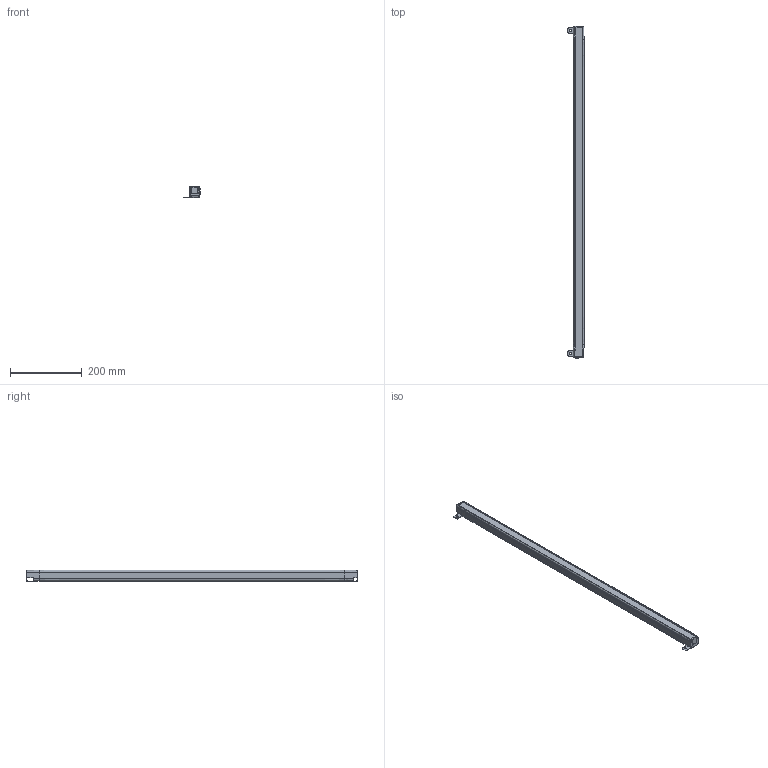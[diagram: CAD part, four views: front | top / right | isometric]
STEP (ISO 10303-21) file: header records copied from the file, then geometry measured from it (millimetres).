
FILE_DESCRIPTION(/* description */ (''),/* implementation_level */ '2;1');
FILE_NAME(/* name */ '4620.stp',/* time_stamp */ '2020-05-26T14:02:40+08:00',/* author */ (''),/* organization */ (''),/* preprocessor_version */ 'ST-DEVELOPER v16',/* originating_system */ 'SIEMENS PLM Software NX 10.0',/* authorisation */ '');
FILE_SCHEMA (('AP203_CONFIGURATION_CONTROLLED_3D_DESIGN_OF_MECHANICAL_PARTS_AND_ASSEMBLIES_MIM_LF { 1 0 10303 403 2 1 2}'));
Length unit declared in the file: millimetre
Products named in the file (1): Admi184CCD9Epm7d
Bounding box: 44.89 x 928.4 x 31.39 mm (x, y, z)
Volume: 287211.3 mm3; surface area: 306093.5 mm2
Topology: 6 solids, 6 shells, 441 faces, 1311 edges, 871 vertices
Faces by surface type: plane 256, cylinder 132, cone 32, bspline 14, extrusion 7
Full cylindrical faces by diameter (mm): 1.5 x2, 3.2 x8, 3.5 x8
Entity records: 15655 total; most frequent: CARTESIAN_POINT 3848, ORIENTED_EDGE 2528, DIRECTION 2314, EDGE_CURVE 1264, VECTOR 856, VERTEX_POINT 855, LINE 849, AXIS2_PLACEMENT_3D 729
